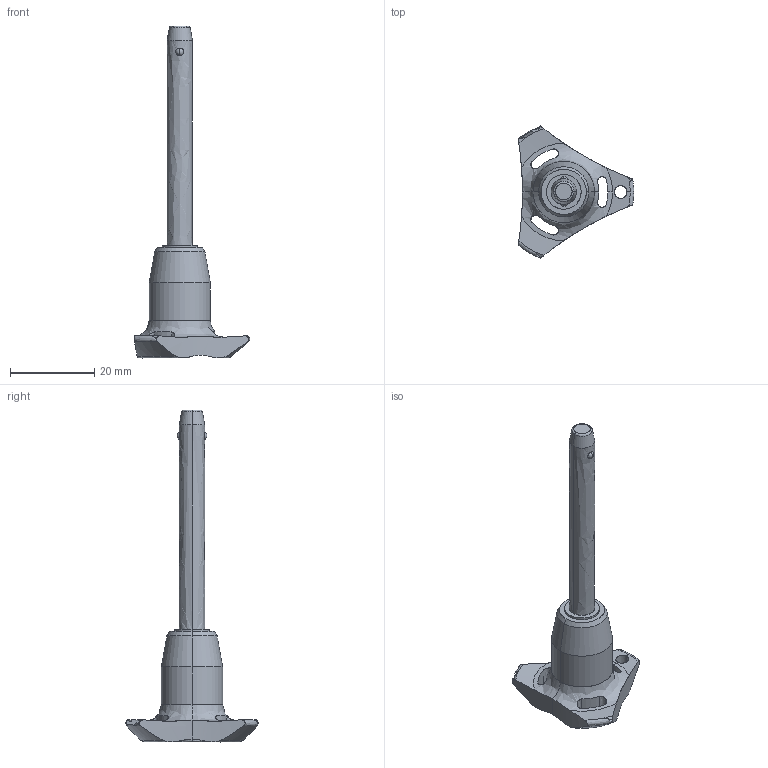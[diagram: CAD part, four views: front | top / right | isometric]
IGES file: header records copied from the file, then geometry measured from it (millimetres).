
Start section: SolidWorks IGES file using analytic representation for surfaces
Global section: file name: C:\Users\ianosborn\Desktop\QR1714_v2\QR1714_v2_20251112_IGES\QR1714.M06-045-S.igs; native system: SolidWorks 2019; preprocessor: SolidWorks 2019; author: IanOsborn; date: 251112.100021; units: millimetre
Bounding box: 27.4 x 31.31 x 78.7 mm (x, y, z)
Surface area: 3401.1 mm2 (no closed solid volume)
Topology: 0 solids, 0 shells, 66 faces, 1251 edges, 1232 vertices
Faces by surface type: revolution 50, bspline 16
